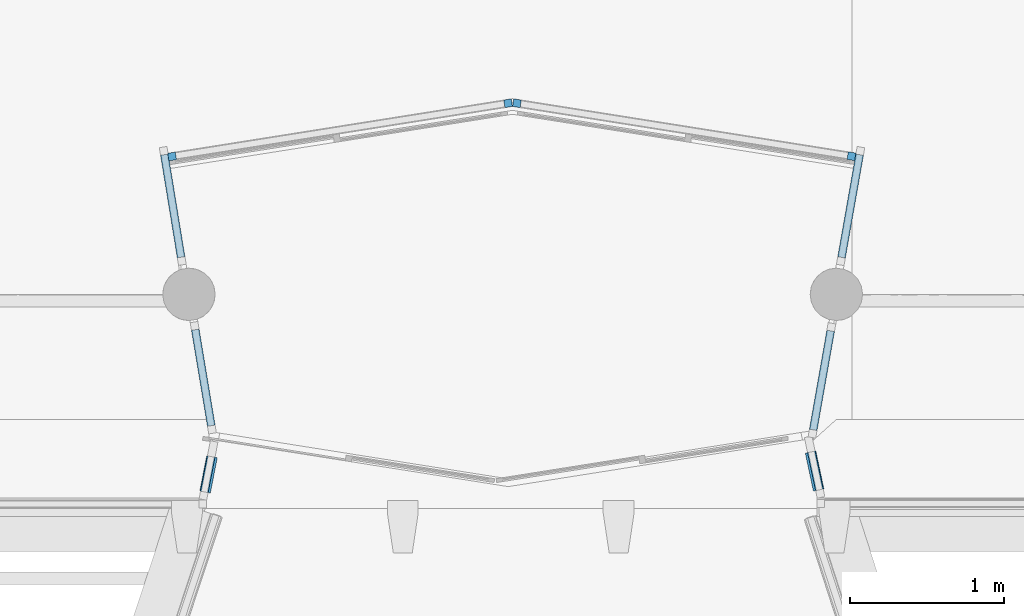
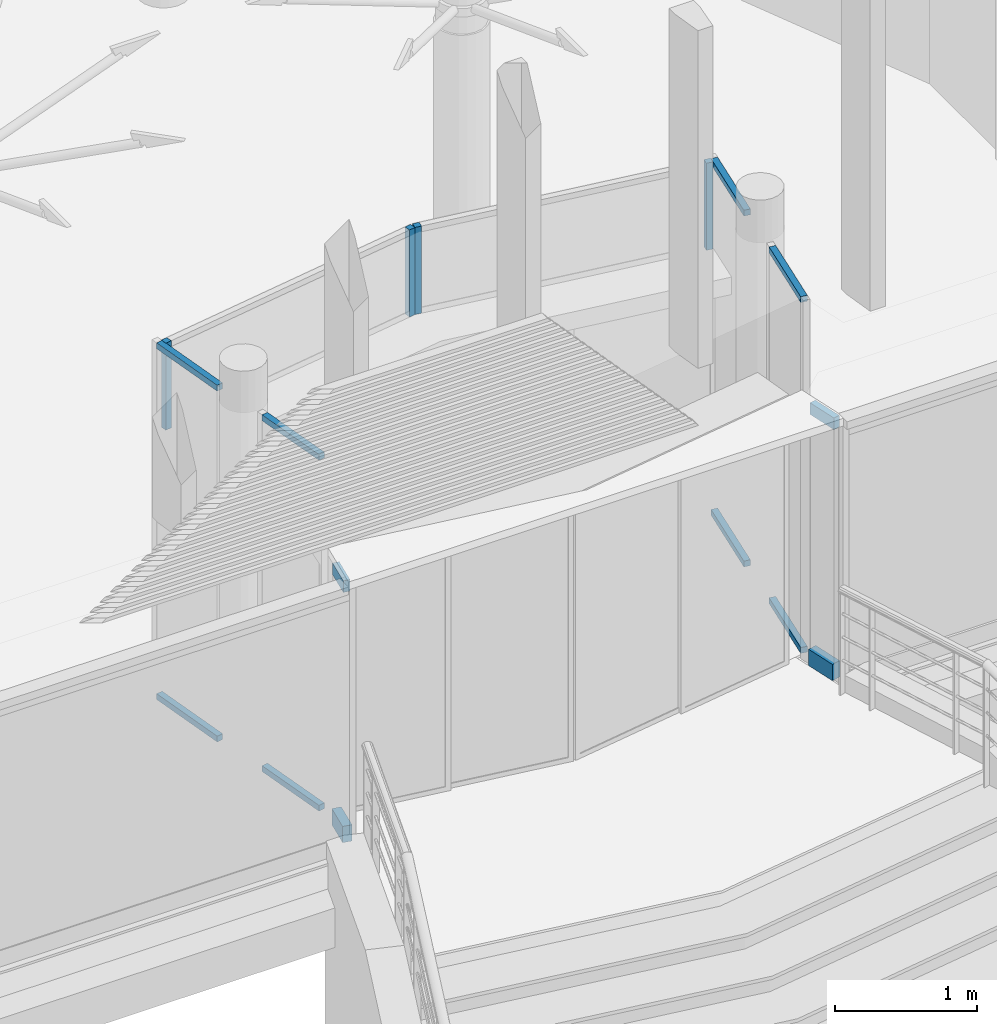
# One storey, part 12 of 65: 16 members, 8 elements without a shape of their own.
"""IFC4 building model written with IfcOpenShell, lengths in metres."""

from ifc_helpers import new_model, entity, si_unit, converted_unit, derived_unit, direction, frame, origin, place, context, subcontext, project, spatial, indexed_curve, outline, extrude, source, transform, mapped, material, type_object, type_shapes, element, aggregate, save


model = new_model("IFC4")

# Units and contexts
model_context = context("Model", 3, precision=1e-05, world=origin(), true_north=direction((6.12303176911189e-17, 1.0)))
body_context = subcontext(model_context, "Body", "Model", "MODEL_VIEW")
ifc_project = project(units=[si_unit("LENGTHUNIT", "METRE"), si_unit("AREAUNIT", "SQUARE_METRE"), si_unit("VOLUMEUNIT", "CUBIC_METRE"), converted_unit("PLANEANGLEUNIT", "DEGREE", entity("IfcRatioMeasure", 0.0174532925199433), si_unit("PLANEANGLEUNIT", "RADIAN"), dimensions=[0, 0, 0, 0, 0, 0, 0]), si_unit("MASSUNIT", "GRAM", prefix="KILO"), derived_unit("MASSDENSITYUNIT", [(si_unit("MASSUNIT", "GRAM", prefix="KILO"), 1), (si_unit("LENGTHUNIT", "METRE"), -3)]), derived_unit("MOMENTOFINERTIAUNIT", [(si_unit("LENGTHUNIT", "METRE"), 4)]), si_unit("TIMEUNIT", "SECOND"), si_unit("FREQUENCYUNIT", "HERTZ"), si_unit("THERMODYNAMICTEMPERATUREUNIT", "DEGREE_CELSIUS"), derived_unit("THERMALTRANSMITTANCEUNIT", [(si_unit("MASSUNIT", "GRAM", prefix="KILO"), 1), (si_unit("THERMODYNAMICTEMPERATUREUNIT", "KELVIN"), -1), (si_unit("TIMEUNIT", "SECOND"), -3)]), derived_unit("VOLUMETRICFLOWRATEUNIT", [(si_unit("LENGTHUNIT", "METRE"), 3), (si_unit("TIMEUNIT", "SECOND"), -1)]), si_unit("ELECTRICCURRENTUNIT", "AMPERE"), si_unit("ELECTRICVOLTAGEUNIT", "VOLT"), si_unit("POWERUNIT", "WATT"), si_unit("FORCEUNIT", "NEWTON", prefix="KILO"), si_unit("ILLUMINANCEUNIT", "LUX"), si_unit("LUMINOUSFLUXUNIT", "LUMEN"), si_unit("LUMINOUSINTENSITYUNIT", "CANDELA"), derived_unit("USERDEFINED", [(si_unit("MASSUNIT", "GRAM", prefix="KILO"), -1), (si_unit("LENGTHUNIT", "METRE"), -2), (si_unit("TIMEUNIT", "SECOND"), 3), (si_unit("LUMINOUSFLUXUNIT", "LUMEN"), 1)]), derived_unit("LINEARVELOCITYUNIT", [(si_unit("LENGTHUNIT", "METRE"), 1), (si_unit("TIMEUNIT", "SECOND"), -1)]), si_unit("PRESSUREUNIT", "PASCAL"), derived_unit("USERDEFINED", [(si_unit("LENGTHUNIT", "METRE"), -2), (si_unit("MASSUNIT", "GRAM", prefix="KILO"), 1), (si_unit("TIMEUNIT", "SECOND"), -2)]), derived_unit("LINEARFORCEUNIT", [(si_unit("MASSUNIT", "GRAM", prefix="KILO"), 1), (si_unit("LENGTHUNIT", "METRE"), 1), (si_unit("TIMEUNIT", "SECOND"), -2), (si_unit("LENGTHUNIT", "METRE"), -1)]), derived_unit("PLANARFORCEUNIT", [(si_unit("MASSUNIT", "GRAM", prefix="KILO"), 1), (si_unit("LENGTHUNIT", "METRE"), 1), (si_unit("TIMEUNIT", "SECOND"), -2), (si_unit("LENGTHUNIT", "METRE"), -2)])], contexts=[model_context])

# Site, building, storey
site_placement = place(None, origin())
site = spatial("IfcSite", under=ifc_project, at=site_placement, Name="Default", CompositionType="ELEMENT")
building_placement = place(site_placement, origin())
building = spatial("IfcBuilding", under=site, at=building_placement, Name="HOTEL CONSULAIRE BOULOGNE SUR MER", CompositionType="ELEMENT")
storey_placement = place(building_placement, origin())
storey = spatial("IfcBuildingStorey", under=building, at=storey_placement, Name="Niveau 0", CompositionType="ELEMENT", Elevation=1.31981936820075e-13)

# Curtain wall, members
curtain_wall_type = type_object("IfcCurtainWallType", Name="Mur-rideau:Simple panneau", PredefinedType="NOTDEFINED")
curtain_wall_1_placement = place(storey_placement, origin())
curtain_wall_1 = element("IfcCurtainWall", 1, at=curtain_wall_1_placement, inside=storey, type_object=curtain_wall_type, Name="Mur-rideau:Simple panneau", ObjectType="Mur-rideau:Simple panneau", PredefinedType="NOTDEFINED")
ifc_material = material(Name="PVC - Blanc", Category="Plastique")
member_type_1 = type_object("IfcMemberType", Name="Meneau rectangulaire:50 x 50 mm", PredefinedType="MULLION", material=ifc_material)
shared_shape_1 = source(origin(), body_context, "Body", "SweptSolid", [
    extrude(outline(indexed_curve([(-0.025, -0.05), (0.025, -0.05), (0.025, 0.05), (-0.025, 0.05), (-0.025, -0.05)], self_intersect=False)), frame((-0.05, -0.025, -0.232999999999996), z_axis=(0.0, 0.0, 1.0), x_axis=(0.0, -1.0, 0.0)), (0.0, 0.0, 1.0), 0.232999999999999),
])
type_shapes(member_type_1, [shared_shape_1])
member_1_placement = place(storey_placement, frame((3.14022576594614, -29.2732666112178, 2.2499999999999), z_axis=(0.190808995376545, 0.981627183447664, 0.0), x_axis=(0.0, 0.0, 1.0)))
member_1 = element("IfcMember", 2, at=member_1_placement, type_object=member_type_1, material=ifc_material, Name="Meneau rectangulaire:50 x 50 mm", ObjectType="Meneau rectangulaire:50 x 50 mm", PredefinedType="MULLION", context=body_context, shape_type="MappedRepresentation", body=[
    mapped(shared_shape_1, transform((0.0, 0.0, 0.0), scale=1.0)),
])
member_type_2 = type_object("IfcMemberType", Name="Meneau rectangulaire:70x70", PredefinedType="MULLION", material=ifc_material)
shared_shape_2 = source(origin(), body_context, "Body", "SweptSolid", [
    extrude(outline(indexed_curve([(-0.035, -0.07), (0.035, -0.07), (0.035, 0.07), (-0.035, 0.07), (-0.035, -0.07)], self_intersect=False)), frame((-0.07, -0.02, -0.232999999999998), z_axis=(0.0, 0.0, 1.0), x_axis=(0.0, -1.0, 0.0)), (0.0, 0.0, 1.0), 0.232999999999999),
])
type_shapes(member_type_2, [shared_shape_2])
member_2_placement = place(storey_placement, frame((3.09576727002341, -29.5019857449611, 0.0), z_axis=(-0.190808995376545, -0.981627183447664, 0.0), x_axis=(0.0, 0.0, -1.0)))
member_2 = element("IfcMember", 3, at=member_2_placement, type_object=member_type_2, material=ifc_material, Name="Meneau rectangulaire:70x70", ObjectType="Meneau rectangulaire:70x70", PredefinedType="MULLION", context=body_context, shape_type="MappedRepresentation", body=[
    mapped(shared_shape_2, transform((0.0, 0.0, 0.0), scale=1.0)),
])
aggregate(curtain_wall_1, [member_1, member_2])

curtain_wall_2_placement = place(storey_placement, origin())
curtain_wall_2 = element("IfcCurtainWall", 4, at=curtain_wall_2_placement, inside=storey, type_object=curtain_wall_type, Name="Mur-rideau:Simple panneau", ObjectType="Mur-rideau:Simple panneau", PredefinedType="NOTDEFINED")
member_type_3 = type_object("IfcMemberType", Name="Meneau rectangulaire:50 x 25mm", PredefinedType="MULLION", material=ifc_material)
shared_shape_3 = source(origin(), body_context, "Body", "SweptSolid", [
    extrude(outline(indexed_curve([(-0.025, -0.025), (0.025, -0.025), (0.025, 0.025), (-0.025, 0.025), (-0.025, -0.025)], self_intersect=False)), frame((-0.025, -0.025, -0.631255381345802), z_axis=(0.0, 0.0, 1.0), x_axis=(0.0, -1.0, 0.0)), (0.0, 0.0, 1.0), 0.631255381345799),
])
type_shapes(member_type_3, [shared_shape_3])
member_3_placement = place(storey_placement, frame((3.037215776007, -28.441189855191, 3.06461878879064), z_axis=(-0.164100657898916, 0.98644359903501, 0.0), x_axis=(0.0, 0.0, 1.0)))
member_3 = element("IfcMember", 5, at=member_3_placement, type_object=member_type_3, material=ifc_material, Name="Meneau rectangulaire:50 x 25mm", ObjectType="Meneau rectangulaire:50 x 25mm", PredefinedType="MULLION", context=body_context, shape_type="MappedRepresentation", body=[
    mapped(shared_shape_3, transform((0.0, 0.0, 0.0), scale=1.0)),
])
member_type_4 = type_object("IfcMemberType", Name="Meneau rectangulaire:50 x 25mm", PredefinedType="MULLION", material=ifc_material)
shared_shape_4 = source(origin(), body_context, "Body", "SweptSolid", [
    extrude(outline(indexed_curve([(-0.025, -0.025), (0.025, -0.025), (0.025, 0.025), (-0.025, 0.025), (-0.025, -0.025)], self_intersect=False)), frame((-0.025, -0.025, -0.631255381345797), z_axis=(0.0, 0.0, 1.0), x_axis=(0.0, -1.0, 0.0)), (0.0, 0.0, 1.0), 0.631255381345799),
])
type_shapes(member_type_4, [shared_shape_4])
member_4_placement = place(storey_placement, frame((3.14080519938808, -29.0638876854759, 0.0), z_axis=(0.164100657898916, -0.98644359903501, 0.0), x_axis=(0.0, 0.0, -1.0)))
member_4 = element("IfcMember", 6, at=member_4_placement, type_object=member_type_4, material=ifc_material, Name="Meneau rectangulaire:50 x 25mm", ObjectType="Meneau rectangulaire:50 x 25mm", PredefinedType="MULLION", context=body_context, shape_type="MappedRepresentation", body=[
    mapped(shared_shape_4, transform((0.0, 0.0, 0.0), scale=1.0)),
])
aggregate(curtain_wall_2, [member_3, member_4])

curtain_wall_3_placement = place(storey_placement, origin())
curtain_wall_3 = element("IfcCurtainWall", 7, at=curtain_wall_3_placement, inside=storey, type_object=curtain_wall_type, Name="Mur-rideau:Simple panneau", ObjectType="Mur-rideau:Simple panneau", PredefinedType="NOTDEFINED")
member_type_5 = type_object("IfcMemberType", Name="Meneau rectangulaire:50 x 50 mm", PredefinedType="MULLION", material=ifc_material)
shared_shape_5 = source(origin(), body_context, "Body", "SweptSolid", [
    extrude(outline(indexed_curve([(-0.025, -0.05), (0.025, -0.05), (0.025, 0.05), (-0.025, 0.05), (-0.025, -0.05)], self_intersect=False)), frame((-0.05, 0.025, -0.251776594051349), z_axis=(0.0, 0.0, 1.0), x_axis=(0.0, -1.0, 0.0)), (0.0, 0.0, 1.0), 0.251776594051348),
])
type_shapes(member_type_5, [shared_shape_5])
member_5_placement = place(storey_placement, frame((6.98420416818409, -29.2428850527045, 2.2499999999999), z_axis=(-0.207911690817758, 0.978147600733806, 0.0), x_axis=(0.0, 0.0, 1.0)))
member_5 = element("IfcMember", 8, at=member_5_placement, type_object=member_type_5, material=ifc_material, Name="Meneau rectangulaire:50 x 50 mm", ObjectType="Meneau rectangulaire:50 x 50 mm", PredefinedType="MULLION", context=body_context, shape_type="MappedRepresentation", body=[
    mapped(shared_shape_5, transform((0.0, 0.0, 0.0), scale=1.0)),
])
member_type_6 = type_object("IfcMemberType", Name="Meneau rectangulaire:70x70", PredefinedType="MULLION", material=ifc_material)
shared_shape_6 = source(origin(), body_context, "Body", "SweptSolid", [
    extrude(outline(indexed_curve([(-0.035, -0.07), (0.035, -0.07), (0.035, 0.07), (-0.035, 0.07), (-0.035, -0.07)], self_intersect=False)), frame((-0.07, 0.02, -0.251776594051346), z_axis=(0.0, 0.0, 1.0), x_axis=(0.0, -1.0, 0.0)), (0.0, 0.0, 1.0), 0.251776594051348),
])
type_shapes(member_type_6, [shared_shape_6])
member_6_placement = place(storey_placement, frame((7.03655146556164, -29.4891597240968, 0.0), z_axis=(0.207911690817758, -0.978147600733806, 0.0), x_axis=(0.0, 0.0, -1.0)))
member_6 = element("IfcMember", 9, at=member_6_placement, type_object=member_type_6, material=ifc_material, Name="Meneau rectangulaire:70x70", ObjectType="Meneau rectangulaire:70x70", PredefinedType="MULLION", context=body_context, shape_type="MappedRepresentation", body=[
    mapped(shared_shape_6, transform((0.0, 0.0, 0.0), scale=1.0)),
])
aggregate(curtain_wall_3, [member_5, member_6])

curtain_wall_4_placement = place(storey_placement, origin())
curtain_wall_4 = element("IfcCurtainWall", 10, at=curtain_wall_4_placement, inside=storey, type_object=curtain_wall_type, Name="Mur-rideau:Simple panneau", ObjectType="Mur-rideau:Simple panneau", PredefinedType="NOTDEFINED")
member_type_7 = type_object("IfcMemberType", Name="Meneau rectangulaire:50 x 25mm", PredefinedType="MULLION", material=ifc_material)
shared_shape_7 = source(origin(), body_context, "Body", "SweptSolid", [
    extrude(outline(indexed_curve([(-0.025, -0.025), (0.025, -0.025), (0.025, 0.025), (-0.025, 0.025), (-0.025, -0.025)], self_intersect=False)), frame((-0.025, 0.025, -0.651999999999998), z_axis=(0.0, 0.0, 1.0), x_axis=(0.0, -1.0, 0.0)), (0.0, 0.0, 1.0), 0.652),
])
type_shapes(member_type_7, [shared_shape_7])
member_7_placement = place(storey_placement, frame((7.10938614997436, -28.4485441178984, 3.06461878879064), z_axis=(0.173648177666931, 0.984807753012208, 0.0), x_axis=(0.0, 0.0, 1.0)))
member_7 = element("IfcMember", 11, at=member_7_placement, type_object=member_type_7, material=ifc_material, Name="Meneau rectangulaire:50 x 25mm", ObjectType="Meneau rectangulaire:50 x 25mm", PredefinedType="MULLION", context=body_context, shape_type="MappedRepresentation", body=[
    mapped(shared_shape_7, transform((0.0, 0.0, 0.0), scale=1.0)),
])
member_type_8 = type_object("IfcMemberType", Name="Meneau rectangulaire:50 x 25mm", PredefinedType="MULLION", material=ifc_material)
shared_shape_8 = source(origin(), body_context, "Body", "SweptSolid", [
    extrude(outline(indexed_curve([(-0.025, -0.025), (0.025, -0.025), (0.025, 0.025), (-0.025, 0.025), (-0.025, -0.025)], self_intersect=False)), frame((-0.025, 0.025, -0.652000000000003), z_axis=(0.0, 0.0, 1.0), x_axis=(0.0, -1.0, 0.0)), (0.0, 0.0, 1.0), 0.652),
])
type_shapes(member_type_8, [shared_shape_8])
member_8_placement = place(storey_placement, frame((6.99616753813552, -29.0906387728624, 0.0), z_axis=(-0.173648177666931, -0.984807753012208, 0.0), x_axis=(0.0, 0.0, -1.0)))
member_8 = element("IfcMember", 12, at=member_8_placement, type_object=member_type_8, material=ifc_material, Name="Meneau rectangulaire:50 x 25mm", ObjectType="Meneau rectangulaire:50 x 25mm", PredefinedType="MULLION", context=body_context, shape_type="MappedRepresentation", body=[
    mapped(shared_shape_8, transform((0.0, 0.0, 0.0), scale=1.0)),
])
aggregate(curtain_wall_4, [member_7, member_8])

curtain_wall_5_placement = place(storey_placement, origin())
curtain_wall_5 = element("IfcCurtainWall", 13, at=curtain_wall_5_placement, inside=storey, type_object=curtain_wall_type, Name="Mur-rideau:Simple panneau", ObjectType="Mur-rideau:Simple panneau", PredefinedType="NOTDEFINED")
member_type_9 = type_object("IfcMemberType", Name="Meneau rectangulaire:50 x 25mm", PredefinedType="MULLION", material=ifc_material)
shared_shape_9 = source(origin(), body_context, "Body", "SweptSolid", [
    extrude(outline(indexed_curve([(-0.025, -0.025), (0.025, -0.025), (0.025, 0.025), (-0.025, 0.025), (-0.025, -0.025)], self_intersect=False)), frame((-0.025, -0.025, -0.673875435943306), z_axis=(0.0, 0.0, 1.0), x_axis=(0.0, -1.0, 0.0)), (0.0, 0.0, 1.0), 0.673875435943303),
])
type_shapes(member_type_9, [shared_shape_9])
member_9_placement = place(storey_placement, frame((2.83671645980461, -27.3059138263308, 3.06461878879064), z_axis=(-0.161062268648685, 0.986944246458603, 0.0), x_axis=(0.0, 0.0, 1.0)))
member_9 = element("IfcMember", 14, at=member_9_placement, type_object=member_type_9, material=ifc_material, Name="Meneau rectangulaire:50 x 25mm", ObjectType="Meneau rectangulaire:50 x 25mm", PredefinedType="MULLION", context=body_context, shape_type="MappedRepresentation", body=[
    mapped(shared_shape_9, transform((0.0, 0.0, 0.0), scale=1.0)),
])
member_type_10 = type_object("IfcMemberType", Name="Meneau rectangulaire:50 x 25mm", PredefinedType="MULLION", material=ifc_material)
shared_shape_10 = source(origin(), body_context, "Body", "SweptSolid", [
    extrude(outline(indexed_curve([(-0.025, -0.025), (0.025, -0.025), (0.025, 0.025), (-0.025, 0.025), (-0.025, -0.025)], self_intersect=False)), frame((-0.025, -0.025, -0.673875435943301), z_axis=(0.0, 0.0, 1.0), x_axis=(0.0, -1.0, 0.0)), (0.0, 0.0, 1.0), 0.673875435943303),
])
type_shapes(member_type_10, [shared_shape_10])
member_10_placement = place(storey_placement, frame((2.94525236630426, -27.9709913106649, 0.0), z_axis=(0.161062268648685, -0.986944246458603, 0.0), x_axis=(0.0, 0.0, -1.0)))
member_10 = element("IfcMember", 15, at=member_10_placement, type_object=member_type_10, material=ifc_material, Name="Meneau rectangulaire:50 x 25mm", ObjectType="Meneau rectangulaire:50 x 25mm", PredefinedType="MULLION", context=body_context, shape_type="MappedRepresentation", body=[
    mapped(shared_shape_10, transform((0.0, 0.0, 0.0), scale=1.0)),
])
aggregate(curtain_wall_5, [member_9, member_10])

curtain_wall_6_placement = place(storey_placement, origin())
curtain_wall_6 = element("IfcCurtainWall", 16, at=curtain_wall_6_placement, inside=storey, type_object=curtain_wall_type, Name="Mur-rideau:Simple panneau", ObjectType="Mur-rideau:Simple panneau", PredefinedType="NOTDEFINED")
member_type_11 = type_object("IfcMemberType", Name="Meneau rectangulaire:50 x 25mm", PredefinedType="MULLION", material=ifc_material)
shared_shape_11 = source(origin(), body_context, "Body", "SweptSolid", [
    extrude(outline(indexed_curve([(-0.025, -0.025), (0.025, -0.025), (0.025, 0.025), (-0.025, 0.025), (-0.025, -0.025)], self_intersect=False)), frame((-0.025, 0.025, -0.67613442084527), z_axis=(0.0, 0.0, 1.0), x_axis=(0.0, -1.0, 0.0)), (0.0, 0.0, 1.0), 0.676134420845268),
])
type_shapes(member_type_11, [shared_shape_11])
member_11_placement = place(storey_placement, frame((7.29726869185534, -27.3058070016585, 3.06461878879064), z_axis=(0.173648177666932, 0.984807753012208, 0.0), x_axis=(0.0, 0.0, 1.0)))
member_11 = element("IfcMember", 17, at=member_11_placement, type_object=member_type_11, material=ifc_material, Name="Meneau rectangulaire:50 x 25mm", ObjectType="Meneau rectangulaire:50 x 25mm", PredefinedType="MULLION", context=body_context, shape_type="MappedRepresentation", body=[
    mapped(shared_shape_11, transform((0.0, 0.0, 0.0), scale=1.0)),
])
member_type_12 = type_object("IfcMemberType", Name="Meneau rectangulaire:50 x 25mm", PredefinedType="MULLION", material=ifc_material)
shared_shape_12 = source(origin(), body_context, "Body", "SweptSolid", [
    extrude(outline(indexed_curve([(-0.025, -0.025), (0.025, -0.025), (0.025, 0.025), (-0.025, 0.025), (-0.025, -0.025)], self_intersect=False)), frame((-0.025, 0.025, -0.676134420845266), z_axis=(0.0, 0.0, 1.0), x_axis=(0.0, -1.0, 0.0)), (0.0, 0.0, 1.0), 0.676134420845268),
])
type_shapes(member_type_12, [shared_shape_12])
member_12_placement = place(storey_placement, frame((7.17985918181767, -27.9716694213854, 0.0), z_axis=(-0.17364817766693, -0.984807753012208, 0.0), x_axis=(0.0, 0.0, -1.0)))
member_12 = element("IfcMember", 18, at=member_12_placement, type_object=member_type_12, material=ifc_material, Name="Meneau rectangulaire:50 x 25mm", ObjectType="Meneau rectangulaire:50 x 25mm", PredefinedType="MULLION", context=body_context, shape_type="MappedRepresentation", body=[
    mapped(shared_shape_12, transform((0.0, 0.0, 0.0), scale=1.0)),
])
aggregate(curtain_wall_6, [member_11, member_12])

curtain_wall_7_placement = place(storey_placement, origin())
curtain_wall_7 = element("IfcCurtainWall", 19, at=curtain_wall_7_placement, inside=storey, type_object=curtain_wall_type, Name="Mur-rideau:Simple panneau", ObjectType="Mur-rideau:Simple panneau", PredefinedType="NOTDEFINED")
member_type_13 = type_object("IfcMemberType", Name="Meneau rectangulaire:50 x 25mm", PredefinedType="MULLION", material=ifc_material)
shared_shape_13 = source(origin(), body_context, "Body", "SweptSolid", [
    extrude(outline(indexed_curve([(-0.025, -0.025), (0.025, -0.025), (0.025, 0.025), (-0.025, 0.025), (-0.025, -0.025)], self_intersect=False)), frame((-0.025, -0.025, -0.74861878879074), z_axis=(0.0, 0.0, 1.0), x_axis=(0.0, -1.0, 0.0)), (0.0, 0.0, 1.0), 0.74861878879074),
])
type_shapes(member_type_13, [shared_shape_13])
member_13_placement = place(storey_placement, frame((2.84129409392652, -27.3501538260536, 3.06461878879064), z_axis=(0.0, 0.0, 1.0), x_axis=(-0.987688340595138, -0.156434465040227, 0.0)))
member_13 = element("IfcMember", 20, at=member_13_placement, type_object=member_type_13, material=ifc_material, Name="Meneau rectangulaire:50 x 25mm", ObjectType="Meneau rectangulaire:50 x 25mm", PredefinedType="MULLION", context=body_context, shape_type="MappedRepresentation", body=[
    mapped(shared_shape_13, transform((0.0, 0.0, 0.0), scale=1.0)),
])
member_type_14 = type_object("IfcMemberType", Name="Meneau rectangulaire:50 x 25mm", PredefinedType="MULLION", material=ifc_material)
shared_shape_14 = source(origin(), body_context, "Body", "SweptSolid", [
    extrude(outline(indexed_curve([(-0.025, -0.025), (0.025, -0.025), (0.025, 0.025), (-0.025, 0.025), (-0.025, -0.025)], self_intersect=False)), frame((-0.025, -0.025, -0.74861878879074), z_axis=(0.0, 0.0, 1.0), x_axis=(0.0, -1.0, 0.0)), (0.0, 0.0, 1.0), 0.74861878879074),
])
type_shapes(member_type_14, [shared_shape_14])
member_14_placement = place(storey_placement, frame((5.07025538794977, -26.9971210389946, 2.3159999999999), z_axis=(0.0, 0.0, -1.0), x_axis=(0.987688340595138, 0.156434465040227, 0.0)))
member_14 = element("IfcMember", 21, at=member_14_placement, type_object=member_type_14, material=ifc_material, Name="Meneau rectangulaire:50 x 25mm", ObjectType="Meneau rectangulaire:50 x 25mm", PredefinedType="MULLION", context=body_context, shape_type="MappedRepresentation", body=[
    mapped(shared_shape_14, transform((0.0, 0.0, 0.0), scale=1.0)),
])
aggregate(curtain_wall_7, [member_13, member_14])

curtain_wall_8_placement = place(storey_placement, origin())
curtain_wall_8 = element("IfcCurtainWall", 22, at=curtain_wall_8_placement, inside=storey, type_object=curtain_wall_type, Name="Mur-rideau:Simple panneau", ObjectType="Mur-rideau:Simple panneau", PredefinedType="NOTDEFINED")
member_type_15 = type_object("IfcMemberType", Name="Meneau rectangulaire:50 x 25mm", PredefinedType="MULLION", material=ifc_material)
shared_shape_15 = source(origin(), body_context, "Body", "SweptSolid", [
    extrude(outline(indexed_curve([(-0.025, -0.025), (0.025, -0.025), (0.025, 0.025), (-0.025, 0.025), (-0.025, -0.025)], self_intersect=False)), frame((-0.025, 0.025, -0.74861878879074), z_axis=(0.0, 0.0, 1.0), x_axis=(0.0, -1.0, 0.0)), (0.0, 0.0, 1.0), 0.74861878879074),
])
type_shapes(member_type_15, [shared_shape_15])
member_15_placement = place(storey_placement, frame((7.28971452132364, -27.3486488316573, 3.06461878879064), z_axis=(0.0, 0.0, 1.0), x_axis=(0.987688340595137, -0.156434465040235, 0.0)))
member_15 = element("IfcMember", 23, at=member_15_placement, type_object=member_type_15, material=ifc_material, Name="Meneau rectangulaire:50 x 25mm", ObjectType="Meneau rectangulaire:50 x 25mm", PredefinedType="MULLION", context=body_context, shape_type="MappedRepresentation", body=[
    mapped(shared_shape_15, transform((0.0, 0.0, 0.0), scale=1.0)),
])
member_type_16 = type_object("IfcMemberType", Name="Meneau rectangulaire:50 x 25mm", PredefinedType="MULLION", material=ifc_material)
shared_shape_16 = source(origin(), body_context, "Body", "SweptSolid", [
    extrude(outline(indexed_curve([(-0.025, -0.025), (0.025, -0.025), (0.025, 0.025), (-0.025, 0.025), (-0.025, -0.025)], self_intersect=False)), frame((-0.025, 0.025, -0.74861878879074), z_axis=(0.0, 0.0, 1.0), x_axis=(0.0, -1.0, 0.0)), (0.0, 0.0, 1.0), 0.74861878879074),
])
type_shapes(member_type_16, [shared_shape_16])
member_16_placement = place(storey_placement, frame((5.07025538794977, -26.9971210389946, 2.3159999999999), z_axis=(0.0, 0.0, -1.0), x_axis=(-0.987688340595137, 0.156434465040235, 0.0)))
member_16 = element("IfcMember", 24, at=member_16_placement, type_object=member_type_16, material=ifc_material, Name="Meneau rectangulaire:50 x 25mm", ObjectType="Meneau rectangulaire:50 x 25mm", PredefinedType="MULLION", context=body_context, shape_type="MappedRepresentation", body=[
    mapped(shared_shape_16, transform((0.0, 0.0, 0.0), scale=1.0)),
])
aggregate(curtain_wall_8, [member_15, member_16])

save(model, "model.ifc")
